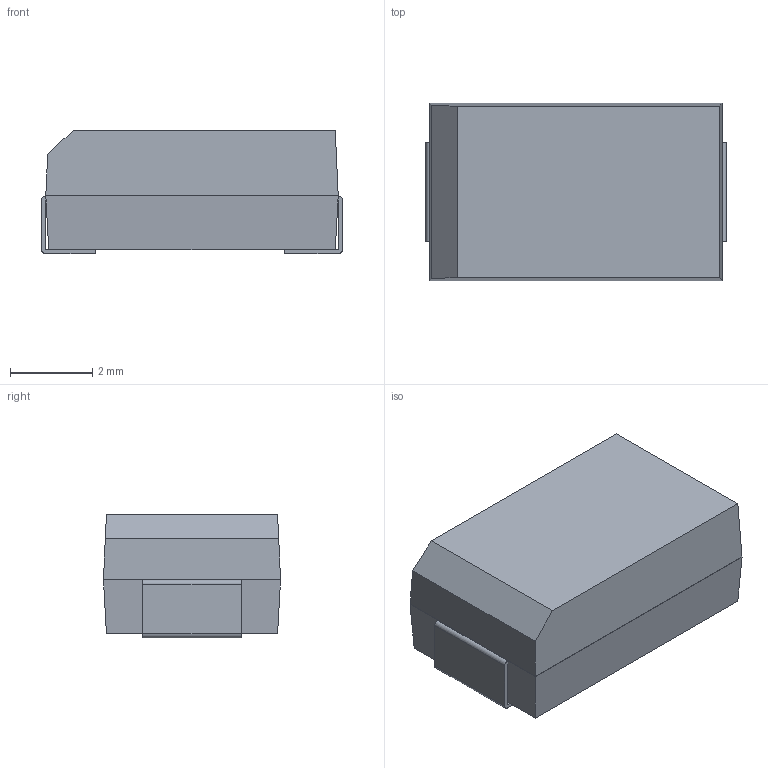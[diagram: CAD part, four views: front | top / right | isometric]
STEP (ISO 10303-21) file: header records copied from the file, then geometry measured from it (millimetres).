
FILE_DESCRIPTION(('FreeCAD Model'),'2;1');
FILE_NAME('/var/www/3D/0T/955176.1.2.stp','2020-04-09T17:11:54',( 'Author'),(''),'Open CASCADE STEP processor 6.9','FreeCAD','Unknown' );
FILE_SCHEMA(('AUTOMOTIVE_DESIGN { 1 0 10303 214 1 1 1 1 }'));
Length unit declared in the file: millimetre
Products named in the file (4): ASSEMBLY; Body; FilletPin1; FilletPin2
Assembly tree (3 placements, depth 2):
  ASSEMBLY
    Body
    FilletPin1
    FilletPin2
Bounding box: 7.3 x 4.3 x 3 mm (x, y, z)
Volume: 87.2 mm3; surface area: 160 mm2
Topology: 3 solids, 3 shells, 39 faces, 91 edges, 58 vertices
Faces by surface type: plane 35, cylinder 4
Entity records: 2372 total; most frequent: CARTESIAN_POINT 402, DIRECTION 359, LINE 253, VECTOR 253, ORIENTED_EDGE 182, PCURVE 182, DEFINITIONAL_REPRESENTATION 182, EDGE_CURVE 91
